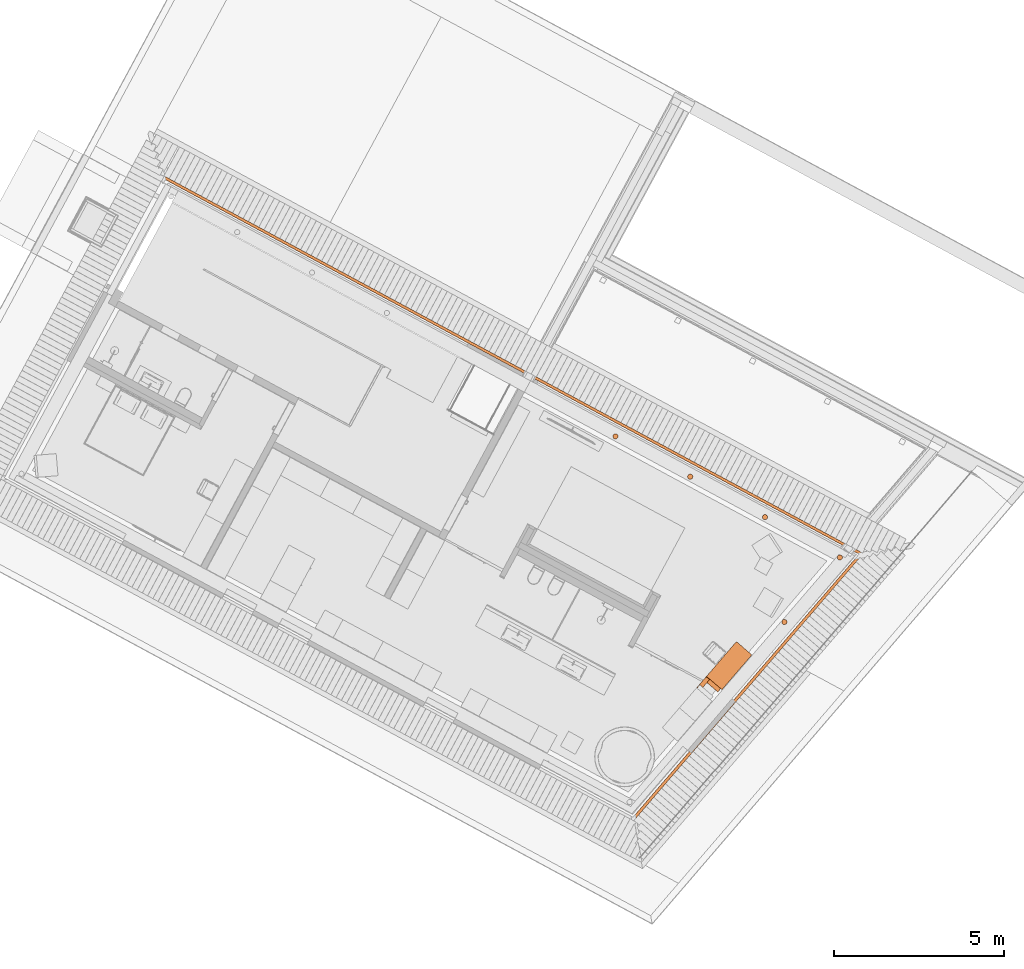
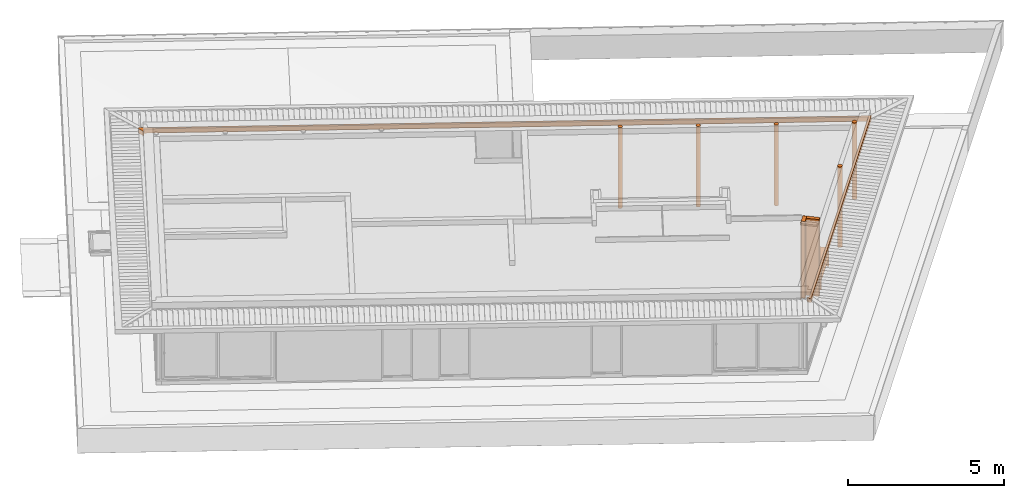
# One storey, part 47 of 48: 9 proxies.
"""IFC2X3 building model written with IfcOpenShell, lengths in metres."""

from ifc_helpers import new_model, entity, si_unit, converted_unit, derived_unit, money_unit, direction, frame, origin_with_axes, place, context, subcontext, project, spatial, faceted_brep, material, material_list, type_object, element, save


model = new_model("IFC2X3")

# Units and contexts
model_context = context("Model", 3, precision=1e-05, world=origin_with_axes(), true_north=direction((0.0, 1.0)))
body_context = subcontext(model_context, "Body", "Model", "MODEL_VIEW")
ifc_project = project(units=[si_unit("LENGTHUNIT", "METRE"), si_unit("AREAUNIT", "SQUARE_METRE"), si_unit("VOLUMEUNIT", "CUBIC_METRE"), converted_unit("PLANEANGLEUNIT", "DEGREE", entity("IfcPlaneAngleMeasure", 0.0174532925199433), si_unit("PLANEANGLEUNIT", "RADIAN"), dimensions=[0, 0, 0, 0, 0, 0, 0]), money_unit("EUR"), converted_unit("TIMEUNIT", "Year", entity("IfcTimeMeasure", 31556926.0), si_unit("TIMEUNIT", "SECOND"), dimensions=[0, 0, 1, 0, 0, 0, 0]), si_unit("MASSUNIT", "GRAM", prefix="KILO"), si_unit("THERMODYNAMICTEMPERATUREUNIT", "DEGREE_CELSIUS"), si_unit("LUMINOUSINTENSITYUNIT", "LUMEN"), si_unit("ENERGYUNIT", "JOULE", prefix="MEGA"), derived_unit("THERMALCONDUCTANCEUNIT", [(si_unit("POWERUNIT", "WATT"), 1), (si_unit("LENGTHUNIT", "METRE"), -1), (si_unit("THERMODYNAMICTEMPERATUREUNIT", "KELVIN"), -1)]), derived_unit("SPECIFICHEATCAPACITYUNIT", [(si_unit("ENERGYUNIT", "JOULE"), 1), (si_unit("MASSUNIT", "GRAM", prefix="KILO"), -1), (si_unit("THERMODYNAMICTEMPERATUREUNIT", "KELVIN"), -1)]), derived_unit("MASSDENSITYUNIT", [(si_unit("MASSUNIT", "GRAM", prefix="KILO"), 1), (si_unit("VOLUMEUNIT", "CUBIC_METRE"), -1)])], contexts=[model_context])

# Site, building, storey
site_placement = place(None, frame((-3.949935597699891, 1.740105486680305, 0.0), z_axis=(0.0, 0.0, 1.0), x_axis=(0.8799804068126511, -0.475009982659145, 0.0)))
site = spatial("IfcSite", under=ifc_project, at=site_placement, Name="Gelände", CompositionType="ELEMENT")
building_placement = place(site_placement, origin_with_axes())
building = spatial("IfcBuilding", under=site, at=building_placement, Name="Gebäude", CompositionType="ELEMENT")
storey_placement = place(building_placement, frame((0.0, 0.0, 4.55), z_axis=(0.0, 0.0, 1.0), x_axis=(1.0, 0.0, 0.0)))
storey = spatial("IfcBuildingStorey", under=building, at=storey_placement, Name="Staffelgeschoss", CompositionType="ELEMENT", Elevation=4.55)

# Proxies
ifc_material_1 = material(Name="Metall, Edelstahl")
building_element_proxy_type_1 = type_object("IfcBuildingElementProxyType", Name="Metall, Edelstahl D152", PredefinedType="NOTDEFINED")
proxy_1_placement = place(storey_placement, frame((22.83947506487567, 10.78779359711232, -0.1900000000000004), z_axis=(0.0, 0.0, 1.0), x_axis=(1.0, 0.0, 0.0)))
element("IfcBuildingElementProxy", 1, at=proxy_1_placement, inside=storey, type_object=building_element_proxy_type_1, material=ifc_material_1, Name="Stütze-003", context=body_context, shape_type="Brep", body=[
    faceted_brep([(-0.07600000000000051, 0.0, 3.155000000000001), (-0.07600000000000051, 0.0, 0.0), (-0.07228029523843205, -0.02348529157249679, 0.0), (-0.07228029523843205, -0.02348529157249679, 3.155000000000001), (-0.07228029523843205, 0.02348529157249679, 3.155000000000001), (-0.07228029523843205, 0.02348529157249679, 0.0), (-0.06148529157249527, 0.04467167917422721, 0.0), (-0.04467167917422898, 0.06148529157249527, 0.0), (-0.02348529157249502, 0.07228029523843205, 0.0), (0.0, 0.07600000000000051, 0.0), (0.02348529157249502, 0.07228029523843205, 0.0), (0.04467167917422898, 0.06148529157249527, 0.0), (0.06148529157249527, 0.04467167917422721, 0.0), (0.07228029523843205, 0.02348529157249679, 0.0), (0.07600000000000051, 0.0, 0.0), (0.07228029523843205, -0.02348529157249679, 0.0), (0.06148529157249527, -0.04467167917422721, 0.0), (0.04467167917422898, -0.06148529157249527, 0.0), (0.02348529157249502, -0.07228029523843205, 0.0), (0.0, -0.07600000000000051, 0.0), (-0.02348529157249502, -0.07228029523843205, 0.0), (-0.04467167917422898, -0.06148529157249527, 0.0), (-0.06148529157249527, -0.04467167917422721, 0.0), (-0.06148529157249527, -0.04467167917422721, 3.155000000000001), (-0.04467167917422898, -0.06148529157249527, 3.155000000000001), (-0.02348529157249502, -0.07228029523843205, 3.155000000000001), (0.0, -0.07600000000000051, 3.155000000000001), (0.02348529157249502, -0.07228029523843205, 3.155000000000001), (0.04467167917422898, -0.06148529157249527, 3.155000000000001), (0.06148529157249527, -0.04467167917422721, 3.155000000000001), (0.07228029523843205, -0.02348529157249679, 3.155000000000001), (0.07600000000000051, 0.0, 3.155000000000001), (0.07228029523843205, 0.02348529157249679, 3.155000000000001), (0.06148529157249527, 0.04467167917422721, 3.155000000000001), (0.04467167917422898, 0.06148529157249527, 3.155000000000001), (0.02348529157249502, 0.07228029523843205, 3.155000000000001), (0.0, 0.07600000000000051, 3.155000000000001), (-0.02348529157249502, 0.07228029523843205, 3.155000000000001), (-0.04467167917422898, 0.06148529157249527, 3.155000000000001), (-0.06148529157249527, 0.04467167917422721, 3.155000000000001)], [[[0, 1, 2, 3]], [[4, 5, 1, 0]], [[2, 1, 5, 6, 7, 8, 9, 10, 11, 12, 13, 14, 15, 16, 17, 18, 19, 20, 21, 22]], [[3, 2, 22, 23]], [[4, 0, 3, 23, 24, 25, 26, 27, 28, 29, 30, 31, 32, 33, 34, 35, 36, 37, 38, 39]], [[39, 6, 5, 4]], [[38, 7, 6, 39]], [[37, 8, 7, 38]], [[36, 9, 8, 37]], [[35, 10, 9, 36]], [[34, 11, 10, 35]], [[33, 12, 11, 34]], [[32, 13, 12, 33]], [[31, 14, 13, 32]], [[30, 15, 14, 31]], [[29, 16, 15, 30]], [[28, 17, 16, 29]], [[27, 18, 17, 28]], [[26, 19, 18, 27]], [[25, 20, 19, 26]], [[24, 21, 20, 25]], [[23, 22, 21, 24]]]),
])
proxy_2_placement = place(storey_placement, frame((25.33797506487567, 10.78779359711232, -0.1900000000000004), z_axis=(0.0, 0.0, 1.0), x_axis=(1.0, 0.0, 0.0)))
element("IfcBuildingElementProxy", 2, at=proxy_2_placement, inside=storey, type_object=building_element_proxy_type_1, material=ifc_material_1, Name="Stütze-003", context=body_context, shape_type="Brep", body=[
    faceted_brep([(-0.07600000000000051, 0.0, 3.155000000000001), (-0.07600000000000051, 0.0, 0.0), (-0.07228029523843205, -0.02348529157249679, 0.0), (-0.07228029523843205, -0.02348529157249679, 3.155000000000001), (-0.07228029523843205, 0.02348529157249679, 3.155000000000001), (-0.07228029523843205, 0.02348529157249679, 0.0), (-0.06148529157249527, 0.04467167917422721, 0.0), (-0.04467167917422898, 0.06148529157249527, 0.0), (-0.02348529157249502, 0.07228029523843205, 0.0), (0.0, 0.07600000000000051, 0.0), (0.02348529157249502, 0.07228029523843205, 0.0), (0.04467167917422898, 0.06148529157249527, 0.0), (0.06148529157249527, 0.04467167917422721, 0.0), (0.07228029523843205, 0.02348529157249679, 0.0), (0.07600000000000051, 0.0, 0.0), (0.07228029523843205, -0.02348529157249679, 0.0), (0.06148529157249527, -0.04467167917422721, 0.0), (0.04467167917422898, -0.06148529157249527, 0.0), (0.02348529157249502, -0.07228029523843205, 0.0), (0.0, -0.07600000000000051, 0.0), (-0.02348529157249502, -0.07228029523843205, 0.0), (-0.04467167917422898, -0.06148529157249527, 0.0), (-0.06148529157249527, -0.04467167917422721, 0.0), (-0.06148529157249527, -0.04467167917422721, 3.155000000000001), (-0.04467167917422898, -0.06148529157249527, 3.155000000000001), (-0.02348529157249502, -0.07228029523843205, 3.155000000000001), (0.0, -0.07600000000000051, 3.155000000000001), (0.02348529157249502, -0.07228029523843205, 3.155000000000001), (0.04467167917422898, -0.06148529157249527, 3.155000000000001), (0.06148529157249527, -0.04467167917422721, 3.155000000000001), (0.07228029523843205, -0.02348529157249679, 3.155000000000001), (0.07600000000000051, 0.0, 3.155000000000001), (0.07228029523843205, 0.02348529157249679, 3.155000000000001), (0.06148529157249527, 0.04467167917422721, 3.155000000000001), (0.04467167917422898, 0.06148529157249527, 3.155000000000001), (0.02348529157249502, 0.07228029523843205, 3.155000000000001), (0.0, 0.07600000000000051, 3.155000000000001), (-0.02348529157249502, 0.07228029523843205, 3.155000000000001), (-0.04467167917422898, 0.06148529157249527, 3.155000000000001), (-0.06148529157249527, 0.04467167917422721, 3.155000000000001)], [[[0, 1, 2, 3]], [[4, 5, 1, 0]], [[2, 1, 5, 6, 7, 8, 9, 10, 11, 12, 13, 14, 15, 16, 17, 18, 19, 20, 21, 22]], [[3, 2, 22, 23]], [[4, 0, 3, 23, 24, 25, 26, 27, 28, 29, 30, 31, 32, 33, 34, 35, 36, 37, 38, 39]], [[39, 6, 5, 4]], [[38, 7, 6, 39]], [[37, 8, 7, 38]], [[36, 9, 8, 37]], [[35, 10, 9, 36]], [[34, 11, 10, 35]], [[33, 12, 11, 34]], [[32, 13, 12, 33]], [[31, 14, 13, 32]], [[30, 15, 14, 31]], [[29, 16, 15, 30]], [[28, 17, 16, 29]], [[27, 18, 17, 28]], [[26, 19, 18, 27]], [[25, 20, 19, 26]], [[24, 21, 20, 25]], [[23, 22, 21, 24]]]),
])
proxy_3_placement = place(storey_placement, frame((20.34097506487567, 10.78779359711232, -0.1900000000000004), z_axis=(0.0, 0.0, 1.0), x_axis=(1.0, 0.0, 0.0)))
element("IfcBuildingElementProxy", 3, at=proxy_3_placement, inside=storey, type_object=building_element_proxy_type_1, material=ifc_material_1, Name="Stütze-003", context=body_context, shape_type="Brep", body=[
    faceted_brep([(-0.07600000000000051, 0.0, 3.155000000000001), (-0.07600000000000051, 0.0, 0.0), (-0.07228029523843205, -0.02348529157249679, 0.0), (-0.07228029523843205, -0.02348529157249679, 3.155000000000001), (-0.07228029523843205, 0.02348529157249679, 3.155000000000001), (-0.07228029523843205, 0.02348529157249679, 0.0), (-0.06148529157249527, 0.04467167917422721, 0.0), (-0.04467167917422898, 0.06148529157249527, 0.0), (-0.02348529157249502, 0.07228029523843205, 0.0), (0.0, 0.07600000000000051, 0.0), (0.02348529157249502, 0.07228029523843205, 0.0), (0.04467167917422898, 0.06148529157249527, 0.0), (0.06148529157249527, 0.04467167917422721, 0.0), (0.07228029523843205, 0.02348529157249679, 0.0), (0.07600000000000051, 0.0, 0.0), (0.07228029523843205, -0.02348529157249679, 0.0), (0.06148529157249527, -0.04467167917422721, 0.0), (0.04467167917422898, -0.06148529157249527, 0.0), (0.02348529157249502, -0.07228029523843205, 0.0), (0.0, -0.07600000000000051, 0.0), (-0.02348529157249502, -0.07228029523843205, 0.0), (-0.04467167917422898, -0.06148529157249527, 0.0), (-0.06148529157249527, -0.04467167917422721, 0.0), (-0.06148529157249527, -0.04467167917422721, 3.155000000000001), (-0.04467167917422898, -0.06148529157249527, 3.155000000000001), (-0.02348529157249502, -0.07228029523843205, 3.155000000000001), (0.0, -0.07600000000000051, 3.155000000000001), (0.02348529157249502, -0.07228029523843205, 3.155000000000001), (0.04467167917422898, -0.06148529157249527, 3.155000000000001), (0.06148529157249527, -0.04467167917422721, 3.155000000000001), (0.07228029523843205, -0.02348529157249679, 3.155000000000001), (0.07600000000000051, 0.0, 3.155000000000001), (0.07228029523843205, 0.02348529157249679, 3.155000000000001), (0.06148529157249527, 0.04467167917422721, 3.155000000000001), (0.04467167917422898, 0.06148529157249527, 3.155000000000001), (0.02348529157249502, 0.07228029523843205, 3.155000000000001), (0.0, 0.07600000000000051, 3.155000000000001), (-0.02348529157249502, 0.07228029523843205, 3.155000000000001), (-0.04467167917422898, 0.06148529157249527, 3.155000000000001), (-0.06148529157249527, 0.04467167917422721, 3.155000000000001)], [[[0, 1, 2, 3]], [[4, 5, 1, 0]], [[2, 1, 5, 6, 7, 8, 9, 10, 11, 12, 13, 14, 15, 16, 17, 18, 19, 20, 21, 22]], [[3, 2, 22, 23]], [[4, 0, 3, 23, 24, 25, 26, 27, 28, 29, 30, 31, 32, 33, 34, 35, 36, 37, 38, 39]], [[39, 6, 5, 4]], [[38, 7, 6, 39]], [[37, 8, 7, 38]], [[36, 9, 8, 37]], [[35, 10, 9, 36]], [[34, 11, 10, 35]], [[33, 12, 11, 34]], [[32, 13, 12, 33]], [[31, 14, 13, 32]], [[30, 15, 14, 31]], [[29, 16, 15, 30]], [[28, 17, 16, 29]], [[27, 18, 17, 28]], [[26, 19, 18, 27]], [[25, 20, 19, 26]], [[24, 21, 20, 25]], [[23, 22, 21, 24]]]),
])
ifc_material_2 = material(Name="Metall, Stahl lackiert")
building_element_proxy_type_2 = type_object("IfcBuildingElementProxyType", Name="Metall, Stahl lackiert D152", PredefinedType="NOTDEFINED")
proxy_4_placement = place(storey_placement, frame((27.30450369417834, 8.344167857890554, -0.1499999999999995), z_axis=(0.0, 0.0, 1.0), x_axis=(1.0, 0.0, 0.0)))
element("IfcBuildingElementProxy", 4, at=proxy_4_placement, inside=storey, type_object=building_element_proxy_type_2, material=ifc_material_2, Name="Stütze-004", context=body_context, shape_type="Brep", body=[
    faceted_brep([(-0.07600000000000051, 0.0, 3.154000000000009), (-0.07600000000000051, 0.0, 0.0), (-0.07228029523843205, -0.02348529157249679, 0.0), (-0.07228029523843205, -0.02348529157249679, 3.154000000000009), (-0.07228029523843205, 0.02348529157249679, 3.154000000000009), (-0.07228029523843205, 0.02348529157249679, 0.0), (-0.06148529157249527, 0.04467167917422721, 0.0), (-0.04467167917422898, 0.06148529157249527, 0.0), (-0.02348529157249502, 0.07228029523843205, 0.0), (0.0, 0.07600000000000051, 0.0), (0.02348529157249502, 0.07228029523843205, 0.0), (0.04467167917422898, 0.06148529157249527, 0.0), (0.06148529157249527, 0.04467167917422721, 0.0), (0.07228029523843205, 0.02348529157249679, 0.0), (0.07600000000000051, 0.0, 0.0), (0.07228029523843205, -0.02348529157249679, 0.0), (0.06148529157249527, -0.04467167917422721, 0.0), (0.04467167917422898, -0.06148529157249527, 0.0), (0.02348529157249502, -0.07228029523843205, 0.0), (0.0, -0.07600000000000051, 0.0), (-0.02348529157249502, -0.07228029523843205, 0.0), (-0.04467167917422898, -0.06148529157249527, 0.0), (-0.06148529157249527, -0.04467167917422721, 0.0), (-0.06148529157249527, -0.04467167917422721, 3.154000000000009), (-0.04467167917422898, -0.06148529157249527, 3.154000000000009), (-0.02348529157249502, -0.07228029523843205, 3.154000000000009), (0.0, -0.07600000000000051, 3.154000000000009), (0.02348529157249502, -0.07228029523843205, 3.154000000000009), (0.04467167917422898, -0.06148529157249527, 3.154000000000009), (0.06148529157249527, -0.04467167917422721, 3.154000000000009), (0.07228029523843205, -0.02348529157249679, 3.154000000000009), (0.07600000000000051, 0.0, 3.154000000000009), (0.07228029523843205, 0.02348529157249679, 3.154000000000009), (0.06148529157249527, 0.04467167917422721, 3.154000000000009), (0.04467167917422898, 0.06148529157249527, 3.154000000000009), (0.02348529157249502, 0.07228029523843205, 3.154000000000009), (0.0, 0.07600000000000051, 3.154000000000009), (-0.02348529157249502, 0.07228029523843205, 3.154000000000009), (-0.04467167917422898, 0.06148529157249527, 3.154000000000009), (-0.06148529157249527, 0.04467167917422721, 3.154000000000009)], [[[0, 1, 2, 3]], [[4, 5, 1, 0]], [[2, 1, 5, 6, 7, 8, 9, 10, 11, 12, 13, 14, 15, 16, 17, 18, 19, 20, 21, 22]], [[3, 2, 22, 23]], [[4, 0, 3, 23, 24, 25, 26, 27, 28, 29, 30, 31, 32, 33, 34, 35, 36, 37, 38, 39]], [[39, 6, 5, 4]], [[38, 7, 6, 39]], [[37, 8, 7, 38]], [[36, 9, 8, 37]], [[35, 10, 9, 36]], [[34, 11, 10, 35]], [[33, 12, 11, 34]], [[32, 13, 12, 33]], [[31, 14, 13, 32]], [[30, 15, 14, 31]], [[29, 16, 15, 30]], [[28, 17, 16, 29]], [[27, 18, 17, 28]], [[26, 19, 18, 27]], [[25, 20, 19, 26]], [[24, 21, 20, 25]], [[23, 22, 21, 24]]]),
])
proxy_5_placement = place(storey_placement, frame((27.83821215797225, 10.78779359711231, -8.523344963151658e-08), z_axis=(0.0, 0.0, 1.0), x_axis=(1.0, 0.0, 0.0)))
element("IfcBuildingElementProxy", 5, at=proxy_5_placement, inside=storey, type_object=building_element_proxy_type_2, material=ifc_material_2, Name="Stütze-004", context=body_context, shape_type="Brep", body=[
    faceted_brep([(-0.07600000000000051, 0.0, 3.004000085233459), (-0.07600000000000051, 0.0, 0.0), (-0.07228029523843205, -0.02348529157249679, 0.0), (-0.07228029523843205, -0.02348529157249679, 3.004000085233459), (-0.07228029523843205, 0.02348529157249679, 3.004000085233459), (-0.07228029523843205, 0.02348529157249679, 0.0), (-0.06148529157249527, 0.04467167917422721, 0.0), (-0.04467167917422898, 0.06148529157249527, 0.0), (-0.02348529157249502, 0.07228029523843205, 0.0), (0.0, 0.07600000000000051, 0.0), (0.02348529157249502, 0.07228029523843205, 0.0), (0.04467167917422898, 0.06148529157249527, 0.0), (0.06148529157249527, 0.04467167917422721, 0.0), (0.07228029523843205, 0.02348529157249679, 0.0), (0.07600000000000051, 0.0, 0.0), (0.07228029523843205, -0.02348529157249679, 0.0), (0.06148529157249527, -0.04467167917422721, 0.0), (0.04467167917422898, -0.06148529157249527, 0.0), (0.02348529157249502, -0.07228029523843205, 0.0), (0.0, -0.07600000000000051, 0.0), (-0.02348529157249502, -0.07228029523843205, 0.0), (-0.04467167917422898, -0.06148529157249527, 0.0), (-0.06148529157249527, -0.04467167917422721, 0.0), (-0.06148529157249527, -0.04467167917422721, 3.004000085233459), (-0.04467167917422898, -0.06148529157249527, 3.004000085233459), (-0.02348529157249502, -0.07228029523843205, 3.004000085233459), (0.0, -0.07600000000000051, 3.004000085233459), (0.02348529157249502, -0.07228029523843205, 3.004000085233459), (0.04467167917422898, -0.06148529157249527, 3.004000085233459), (0.06148529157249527, -0.04467167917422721, 3.004000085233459), (0.07228029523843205, -0.02348529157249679, 3.004000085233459), (0.07600000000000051, 0.0, 3.004000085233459), (0.07228029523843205, 0.02348529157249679, 3.004000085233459), (0.06148529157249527, 0.04467167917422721, 3.004000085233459), (0.04467167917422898, 0.06148529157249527, 3.004000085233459), (0.02348529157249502, 0.07228029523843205, 3.004000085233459), (0.0, 0.07600000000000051, 3.004000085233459), (-0.02348529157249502, 0.07228029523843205, 3.004000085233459), (-0.04467167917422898, 0.06148529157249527, 3.004000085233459), (-0.06148529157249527, 0.04467167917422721, 3.004000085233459)], [[[0, 1, 2, 3]], [[4, 5, 1, 0]], [[2, 1, 5, 6, 7, 8, 9, 10, 11, 12, 13, 14, 15, 16, 17, 18, 19, 20, 21, 22]], [[3, 2, 22, 23]], [[4, 0, 3, 23, 24, 25, 26, 27, 28, 29, 30, 31, 32, 33, 34, 35, 36, 37, 38, 39]], [[39, 6, 5, 4]], [[38, 7, 6, 39]], [[37, 8, 7, 38]], [[36, 9, 8, 37]], [[35, 10, 9, 36]], [[34, 11, 10, 35]], [[33, 12, 11, 34]], [[32, 13, 12, 33]], [[31, 14, 13, 32]], [[30, 15, 14, 31]], [[29, 16, 15, 30]], [[28, 17, 16, 29]], [[27, 18, 17, 28]], [[26, 19, 18, 27]], [[25, 20, 19, 26]], [[24, 21, 20, 25]], [[23, 22, 21, 24]]]),
])
ifc_material_3 = material(Name="Beton, Leichtbeton")
ifc_material_4 = material(Name="Kleber")
ifc_material_5 = material(Name="Estrich")
ifc_material_6 = material(Name="Dämmung, hart EPS")
ifc_material_list_1 = material_list([ifc_material_3, ifc_material_4, ifc_material_5, ifc_material_6])
building_element_proxy_type_3 = type_object("IfcBuildingElementProxyType", Name="BO | Dämmung 8+Folie+Estrich 7+Fliese 0,5 | 16cm 170", PredefinedType="NOTDEFINED")
proxy_6_placement = place(storey_placement, frame((26.11341292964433, 1.096924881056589, 2.75), z_axis=(0.0, 0.0, 1.0), x_axis=(1.0, 0.0, 0.0)))
element("IfcBuildingElementProxy", 6, at=proxy_6_placement, inside=storey, type_object=building_element_proxy_type_3, material=ifc_material_list_1, Name="Decke058", context=body_context, shape_type="Brep", body=[
    faceted_brep([(0.0, 0.0, 0.1600000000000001), (0.06714008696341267, 0.0, 0.1600000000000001), (0.06714008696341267, 0.0, 0.1699999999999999), (0.0, 0.0, 0.1699999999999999), (-0.06742521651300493, 0.08307476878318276, 0.1600000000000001), (0.0, 0.08307476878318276, 0.1600000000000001), (2.175959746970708, 10.04587572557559, 0.1600000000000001), (-21.00093162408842, 10.04587667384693, 0.1600000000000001), (-21.00093162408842, 9.89371415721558, 0.1600000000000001), (-21.16998302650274, 10.0627655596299, 0.1600000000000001), (-21.16998302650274, 10.12443315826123, 0.1600000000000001), (2.278401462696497, 10.12443220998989, 0.1600000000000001), (2.278401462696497, 10.12443220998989, 0.1699999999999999), (-0.06742521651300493, 0.08307476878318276, 0.1699999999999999), (-21.16998302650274, 10.12443315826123, 0.1699999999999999), (-21.16998302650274, 10.0627655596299, 0.1699999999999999), (-21.00093162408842, 9.89371415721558, 0.1699999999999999), (-21.00093162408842, 10.04587667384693, 0.1699999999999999), (2.175959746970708, 10.04587572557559, 0.1699999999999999), (0.0, 0.08307476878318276, 0.1699999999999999)], [[[0, 1, 2, 3]], [[1, 0, 4, 5, 6, 7, 8, 9, 10, 11]], [[1, 11, 12, 2]], [[13, 3, 2, 12, 14, 15, 16, 17, 18, 19]], [[4, 0, 3, 13]], [[5, 4, 13, 19]], [[6, 5, 19, 18]], [[7, 6, 18, 17]], [[8, 7, 17, 16]], [[9, 8, 16, 15]], [[10, 9, 15, 14]], [[11, 10, 14, 12]]]),
    faceted_brep([(0.0, 0.0, 0.1500000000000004), (0.06714008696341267, 0.0, 0.1500000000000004), (0.06714008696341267, 0.0, 0.1600000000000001), (0.0, 0.0, 0.1600000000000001), (-0.06742521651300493, 0.08307476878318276, 0.1500000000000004), (0.0, 0.08307476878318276, 0.1500000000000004), (2.175959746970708, 10.04587572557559, 0.1500000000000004), (-21.00093162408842, 10.04587667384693, 0.1500000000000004), (-21.00093162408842, 9.89371415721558, 0.1500000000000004), (-21.16998302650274, 10.0627655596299, 0.1500000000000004), (-21.16998302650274, 10.12443315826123, 0.1500000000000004), (2.278401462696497, 10.12443220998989, 0.1500000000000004), (2.278401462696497, 10.12443220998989, 0.1600000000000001), (-0.06742521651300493, 0.08307476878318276, 0.1600000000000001), (-21.16998302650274, 10.12443315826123, 0.1600000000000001), (-21.16998302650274, 10.0627655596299, 0.1600000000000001), (-21.00093162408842, 9.89371415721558, 0.1600000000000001), (-21.00093162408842, 10.04587667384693, 0.1600000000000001), (2.175959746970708, 10.04587572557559, 0.1600000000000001), (0.0, 0.08307476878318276, 0.1600000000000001)], [[[0, 1, 2, 3]], [[1, 0, 4, 5, 6, 7, 8, 9, 10, 11]], [[1, 11, 12, 2]], [[13, 3, 2, 12, 14, 15, 16, 17, 18, 19]], [[4, 0, 3, 13]], [[5, 4, 13, 19]], [[6, 5, 19, 18]], [[7, 6, 18, 17]], [[8, 7, 17, 16]], [[9, 8, 16, 15]], [[10, 9, 15, 14]], [[11, 10, 14, 12]]]),
    faceted_brep([(0.0, 0.0, 0.08000000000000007), (0.06714008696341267, 0.0, 0.08000000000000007), (0.06714008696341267, 0.0, 0.1500000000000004), (0.0, 0.0, 0.1500000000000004), (-0.06742521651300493, 0.08307476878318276, 0.08000000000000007), (0.0, 0.08307476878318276, 0.08000000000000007), (2.175959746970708, 10.04587572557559, 0.08000000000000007), (-21.00093162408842, 10.04587667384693, 0.08000000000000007), (-21.00093162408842, 9.89371415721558, 0.08000000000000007), (-21.16998302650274, 10.0627655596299, 0.08000000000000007), (-21.16998302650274, 10.12443315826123, 0.08000000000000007), (2.278401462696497, 10.12443220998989, 0.08000000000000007), (2.278401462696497, 10.12443220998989, 0.1500000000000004), (-0.06742521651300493, 0.08307476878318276, 0.1500000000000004), (-21.16998302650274, 10.12443315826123, 0.1500000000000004), (-21.16998302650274, 10.0627655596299, 0.1500000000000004), (-21.00093162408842, 9.89371415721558, 0.1500000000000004), (-21.00093162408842, 10.04587667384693, 0.1500000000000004), (2.175959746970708, 10.04587572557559, 0.1500000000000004), (0.0, 0.08307476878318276, 0.1500000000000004)], [[[0, 1, 2, 3]], [[1, 0, 4, 5, 6, 7, 8, 9, 10, 11]], [[1, 11, 12, 2]], [[13, 3, 2, 12, 14, 15, 16, 17, 18, 19]], [[4, 0, 3, 13]], [[5, 4, 13, 19]], [[6, 5, 19, 18]], [[7, 6, 18, 17]], [[8, 7, 17, 16]], [[9, 8, 16, 15]], [[10, 9, 15, 14]], [[11, 10, 14, 12]]]),
    faceted_brep([(0.0, 0.0, 0.0), (0.06714008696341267, 0.0, 0.0), (0.06714008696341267, 0.0, 0.08000000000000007), (0.0, 0.0, 0.08000000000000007), (-0.06742521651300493, 0.08307476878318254, 0.0), (0.0, 0.08307476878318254, 0.0), (2.175959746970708, 10.04587572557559, 0.0), (-21.00093162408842, 10.04587667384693, 0.0), (-21.00093162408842, 9.89371415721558, 0.0), (-21.16998302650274, 10.0627655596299, 0.0), (-21.16998302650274, 10.12443315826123, 0.0), (2.278401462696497, 10.12443220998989, 0.0), (2.278401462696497, 10.12443220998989, 0.08000000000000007), (-21.16998302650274, 10.12443315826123, 0.08000000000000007), (-21.16998302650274, 10.0627655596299, 0.08000000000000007), (-21.00093162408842, 9.89371415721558, 0.08000000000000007), (-21.00093162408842, 10.04587667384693, 0.08000000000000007), (2.175959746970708, 10.04587572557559, 0.08000000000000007), (0.0, 0.08307476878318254, 0.08000000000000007), (-0.06742521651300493, 0.08307476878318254, 0.08000000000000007)], [[[0, 1, 2, 3]], [[0, 4, 5, 6, 7, 8, 9, 10, 11, 1]], [[1, 11, 12, 2]], [[3, 2, 12, 13, 14, 15, 16, 17, 18, 19]], [[4, 0, 3, 19]], [[5, 4, 19, 18]], [[6, 5, 18, 17]], [[7, 6, 17, 16]], [[8, 7, 16, 15]], [[9, 8, 15, 14]], [[10, 9, 14, 13]], [[11, 10, 13, 12]]]),
])
ifc_material_7 = material(Name="Verputz, Gips")
ifc_material_8 = material(Name="MW Kalksandstein")
ifc_material_list_2 = material_list([ifc_material_7, ifc_material_8])
building_element_proxy_type_4 = type_object("IfcBuildingElementProxyType", Name="WI | KS 11,5+1-seitig Putz 1,5 | 13cm 130", PredefinedType="NOTDEFINED")
proxy_7_placement = place(storey_placement, frame((26.02036336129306, 5.721745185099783, -0.1799999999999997), z_axis=(0.0, 0.0, 1.0), x_axis=(0.9769696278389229, -0.2133784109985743, 0.0)))
element("IfcBuildingElementProxy", 7, at=proxy_7_placement, inside=storey, type_object=building_element_proxy_type_4, material=ifc_material_list_2, Name="I-Wand018", context=body_context, shape_type="Brep", body=[
    faceted_brep([(0.551898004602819, 0.1150000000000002, 3.005000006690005), (0.5518980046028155, 0.1300000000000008, 3.005000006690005), (0.01500000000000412, 0.129999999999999, 3.005000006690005), (0.01500000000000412, 0.1150000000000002, 3.005000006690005), (0.551898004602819, 0.1150000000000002, 0.0), (0.5518980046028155, 0.1300000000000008, 0.0), (0.01500000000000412, 0.129999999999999, 0.0), (0.01500000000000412, 0.1150000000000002, 0.0)], [[[0, 1, 2, 3]], [[0, 4, 5, 1]], [[1, 5, 6, 2]], [[3, 2, 6, 7]], [[4, 0, 3, 7]], [[5, 4, 7, 6]]]),
    faceted_brep([(0.551898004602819, 0.0, 3.005000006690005), (0.551898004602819, 0.1150000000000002, 3.005000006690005), (0.1300000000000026, 0.1150000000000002, 3.005000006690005), (0.129999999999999, 0.0, 3.005000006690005), (0.551898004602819, 0.0, 0.0), (0.551898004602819, 0.1150000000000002, 0.0), (0.1300000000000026, 0.1150000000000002, 0.0), (0.129999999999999, 0.0, 0.0)], [[[0, 1, 2, 3]], [[0, 4, 5, 1]], [[1, 5, 6, 2]], [[3, 2, 6, 7]], [[4, 0, 3, 7]], [[5, 4, 7, 6]]]),
])
proxy_8_placement = place(storey_placement, frame((25.95311129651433, 5.41382638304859, -0.1799999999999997), z_axis=(0.0, 0.0, 1.0), x_axis=(0.2133784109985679, 0.9769696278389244, 0.0)))
element("IfcBuildingElementProxy", 8, at=proxy_8_placement, inside=storey, type_object=building_element_proxy_type_4, material=ifc_material_list_2, Name="I-Wand019", context=body_context, shape_type="Brep", body=[
    faceted_brep([(0.4451774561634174, 0.0, 3.005000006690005), (0.01500000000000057, 0.0, 3.005000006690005), (0.01500000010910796, -0.01500000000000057, 3.005000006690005), (0.4451774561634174, -0.01500000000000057, 3.005000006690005), (0.4451774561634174, 0.0, 0.0), (0.01500000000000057, 0.0, 0.0), (0.01500000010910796, -0.01500000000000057, 0.0), (0.4451774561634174, -0.01500000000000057, 0.0)], [[[0, 1, 2, 3]], [[4, 5, 1, 0]], [[2, 1, 5, 6]], [[3, 2, 6, 7]], [[3, 7, 4, 0]], [[7, 6, 5, 4]]]),
    faceted_brep([(0.4301774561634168, -0.01500000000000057, 3.005000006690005), (0.1300000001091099, -0.01500000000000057, 3.005000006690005), (0.1300000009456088, -0.129999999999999, 3.005000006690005), (0.4301774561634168, -0.1299999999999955, 3.005000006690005), (0.4301774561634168, -0.01500000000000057, 0.0), (0.1300000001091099, -0.01500000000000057, 0.0), (0.1300000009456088, -0.129999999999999, 0.0), (0.4301774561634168, -0.1299999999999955, 0.0)], [[[0, 1, 2, 3]], [[4, 5, 1, 0]], [[2, 1, 5, 6]], [[3, 2, 6, 7]], [[3, 7, 4, 0]], [[7, 6, 5, 4]]]),
])
building_element_proxy_type_5 = type_object("IfcBuildingElementProxyType", Name="Schreibtisch 22", PredefinedType="NOTDEFINED")
proxy_9_placement = place(storey_placement, frame((26.04810255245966, 5.848751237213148, 0.0), z_axis=(0.0, 0.0, 1.0), x_axis=(-0.2133784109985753, -0.9769696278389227, 0.0)))
element("IfcBuildingElementProxy", 9, at=proxy_9_placement, inside=storey, type_object=building_element_proxy_type_5, Name="Objekt-0068", context=body_context, shape_type="Brep", body=[
    faceted_brep([(-0.02, 0.1500000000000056, 0.0), (-0.02, 0.6000000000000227, 0.0), (0.0, 0.6000000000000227, 0.0), (0.0, 0.1500000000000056, 0.0), (-0.02, 0.1500000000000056, 0.695), (-0.02, 0.6000000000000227, 0.695), (0.0, 0.6000000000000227, 0.695), (0.0, 0.1500000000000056, 0.695)], [[[0, 1, 2, 3]], [[0, 4, 5, 1]], [[1, 5, 6, 2]], [[2, 6, 7, 3]], [[3, 7, 4, 0]], [[7, 6, 5, 4]]]),
    faceted_brep([(-1.350000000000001, 0.1500000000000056, 0.0), (-1.350000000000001, 0.6000000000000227, 0.0), (-1.330000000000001, 0.6000000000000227, 0.0), (-1.330000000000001, 0.1500000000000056, 0.0), (-1.350000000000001, 0.1500000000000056, 0.695), (-1.350000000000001, 0.6000000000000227, 0.695), (-1.330000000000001, 0.6000000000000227, 0.695), (-1.330000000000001, 0.1500000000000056, 0.695)], [[[0, 1, 2, 3]], [[0, 4, 5, 1]], [[1, 5, 6, 2]], [[2, 6, 7, 3]], [[3, 7, 4, 0]], [[7, 6, 5, 4]]]),
    faceted_brep([(-1.350000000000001, 0.0, 0.695), (-1.350000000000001, 0.6000000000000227, 0.695), (0.0, 0.6000000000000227, 0.695), (0.0, 0.0, 0.695), (-1.350000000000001, 0.0, 0.72), (-1.350000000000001, 0.6000000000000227, 0.72), (0.0, 0.6000000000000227, 0.72), (0.0, 0.0, 0.72)], [[[0, 1, 2, 3]], [[0, 4, 5, 1]], [[1, 5, 6, 2]], [[2, 6, 7, 3]], [[3, 7, 4, 0]], [[7, 6, 5, 4]]]),
    faceted_brep([(-1.330000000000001, 0.5800000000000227, 0.36), (-1.330000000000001, 0.6000000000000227, 0.36), (-0.02000000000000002, 0.6000000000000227, 0.36), (-0.02000000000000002, 0.5800000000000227, 0.36), (-1.330000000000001, 0.5800000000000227, 0.6950000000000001), (-1.330000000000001, 0.6000000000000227, 0.6950000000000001), (-0.02000000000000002, 0.6000000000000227, 0.6950000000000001), (-0.02000000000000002, 0.5800000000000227, 0.6950000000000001)], [[[0, 1, 2, 3]], [[0, 4, 5, 1]], [[1, 5, 6, 2]], [[2, 6, 7, 3]], [[3, 7, 4, 0]], [[7, 6, 5, 4]]]),
])

save(model, "model.ifc")
